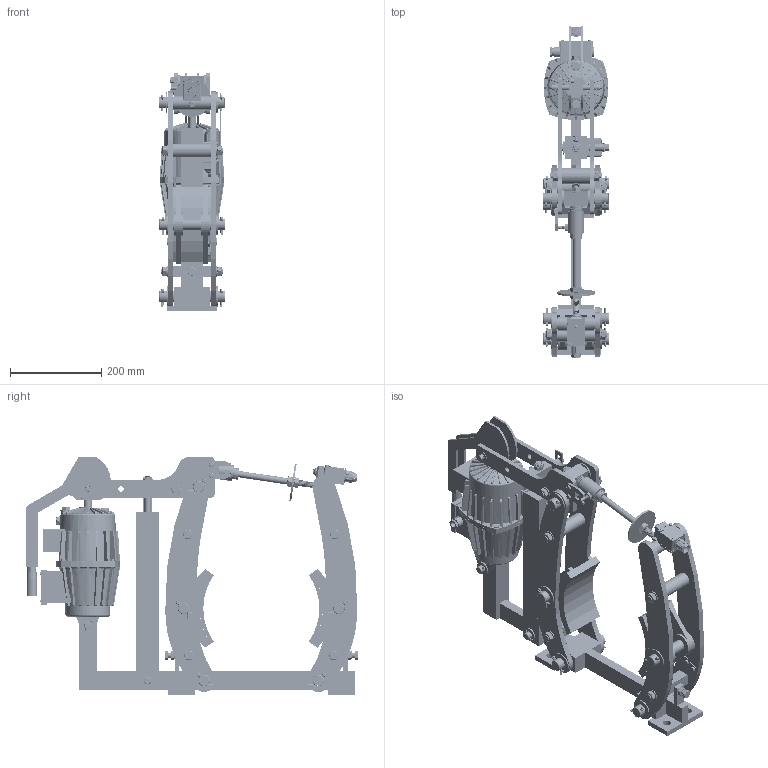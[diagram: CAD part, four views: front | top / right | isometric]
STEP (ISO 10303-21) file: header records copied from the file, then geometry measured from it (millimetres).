
FILE_DESCRIPTION((''),'2;1');
FILE_NAME('4459_254_551_E00001','2018-01-30T',('VORO'),(''),'CREO PARAMETRIC BY PTC INC, 2017170','CREO PARAMETRIC BY PTC INC, 2017170','');
FILE_SCHEMA(('CONFIG_CONTROL_DESIGN'));
Products named in the file (1): 4459_254_551_E00001
Bounding box: 145.61 x 726.48 x 522 mm (x, y, z)
Surface area: 1576757.1 mm2 (no closed solid volume)
Topology: 0 solids, 3012 shells, 3647 faces, 23090 edges, 21736 vertices
Faces by surface type: plane 1484, cylinder 1203, cone 711, torus 231, bspline 18
Entity records: 389627 total; most frequent: CARTESIAN_POINT 121814, PRESENTATION_STYLE_ASSIGNMENT 29676, STYLED_ITEM 26029, DIRECTION 25188, ORIENTED_EDGE 24327, CURVE_STYLE 23017, EDGE_CURVE 23017, VERTEX_POINT 21714
